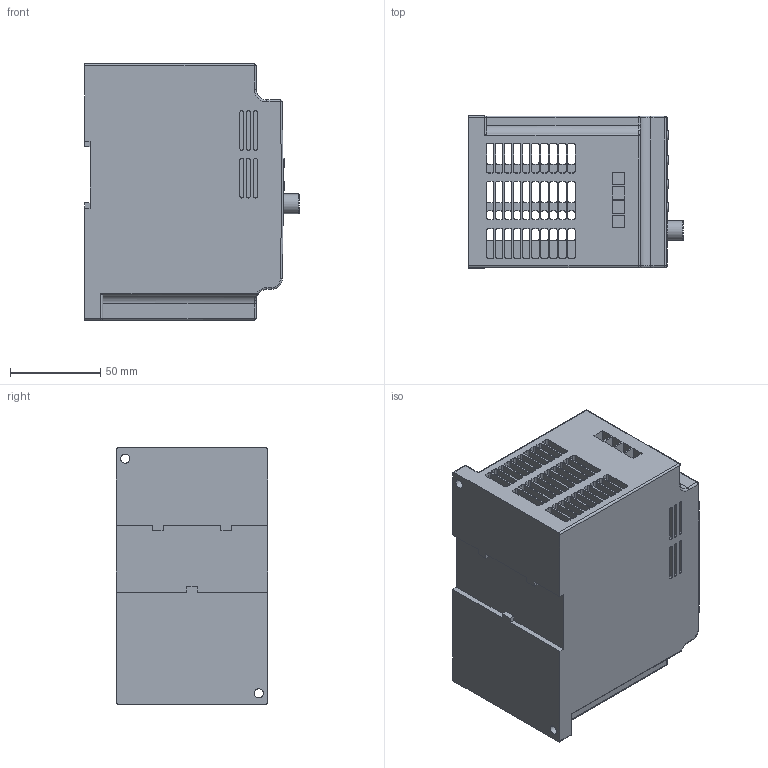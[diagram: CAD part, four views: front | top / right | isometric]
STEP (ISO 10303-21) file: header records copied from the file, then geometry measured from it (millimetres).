
FILE_DESCRIPTION(('STEP AP203'), '1');
FILE_NAME('Ïðåîáðàçîâàòåëü ÷àñòîòû _ VCI-G2.2-4B âåðñèÿ 2', '', ('UNSPECIFIED'), ('UNSPECIFIED'), 'C3D Converter', 'C3D Toolkit', '');
FILE_SCHEMA(('CONFIG_CONTROL_DESIGN'));
Length unit declared in the file: millimetre
Products named in the file (1): VCI-G0.4-4B
Bounding box: 119 x 84 x 142 mm (x, y, z)
Volume: 802900.1 mm3; surface area: 136960.1 mm2
Topology: 2 solids, 2 shells, 966 faces, 2703 edges, 1758 vertices
Faces by surface type: plane 584, cylinder 345, torus 21, sphere 9, bspline 7
Full cylindrical faces by diameter (mm): 1.9 x18, 2.5 x9, 5 x10, 11 x1, 22 x1
Entity records: 39794 total; most frequent: CARTESIAN_POINT 6570, ORIENTED_EDGE 5286, DIRECTION 5253, EDGE_CURVE 2643, LINE 1895, VECTOR 1895, VERTEX_POINT 1757, AXIS2_PLACEMENT_3D 1679
